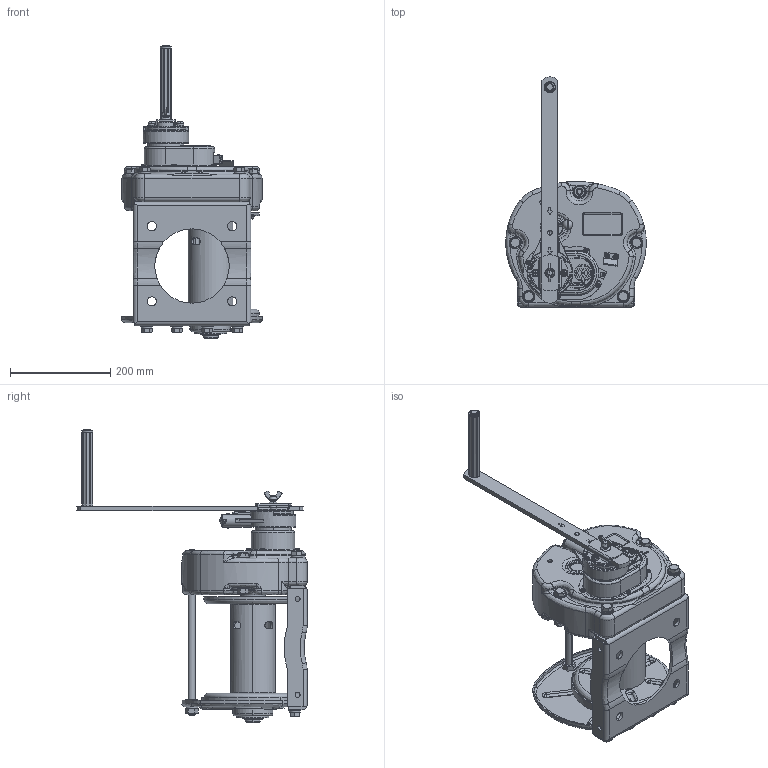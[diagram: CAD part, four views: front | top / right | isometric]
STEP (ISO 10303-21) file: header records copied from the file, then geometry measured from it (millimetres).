
FILE_DESCRIPTION( (''), '2;1');
FILE_NAME ('MR-20.stp','2023-12-22T17:16:26',(''),(''),'spGate 19.8.2 (****-****-****-****)','','');
FILE_SCHEMA (('AUTOMOTIVE_DESIGN'));
Length unit declared in the file: millimetre
Products named in the file (3): Assembly; MR-20-prt0; MR-20-prt1
Assembly tree (2 placements, depth 2):
  Assembly
    MR-20-prt0
    MR-20-prt1
Bounding box: 279.93 x 458.63 x 584.9 mm (x, y, z)
Volume: 7142114.3 mm3; surface area: 971891.5 mm2
Topology: 2 solids, 2 shells, 3200 faces, 8292 edges, 5237 vertices
Faces by surface type: plane 1569, cylinder 980, bspline 508, sphere 143
Entity records: 175615 total; most frequent: CARTESIAN_POINT 33469, ORIENTED_EDGE 16420, DIRECTION 15873, COLOUR_RGB 11412, PRESENTATION_STYLE_ASSIGNMENT 11412, STYLED_ITEM 11412, EDGE_CURVE 8210, DRAUGHTING_PRE_DEFINED_CURVE_FONT 8210
